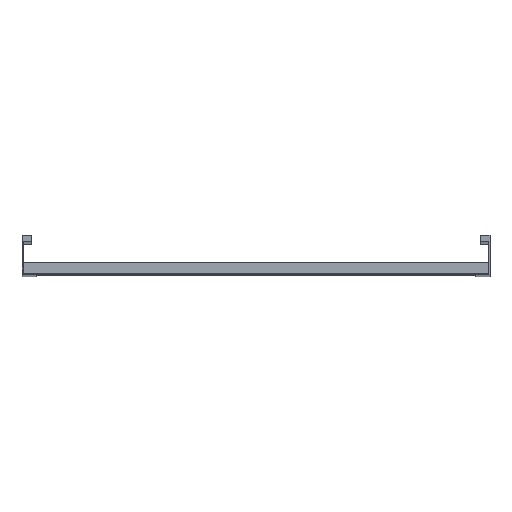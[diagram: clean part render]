
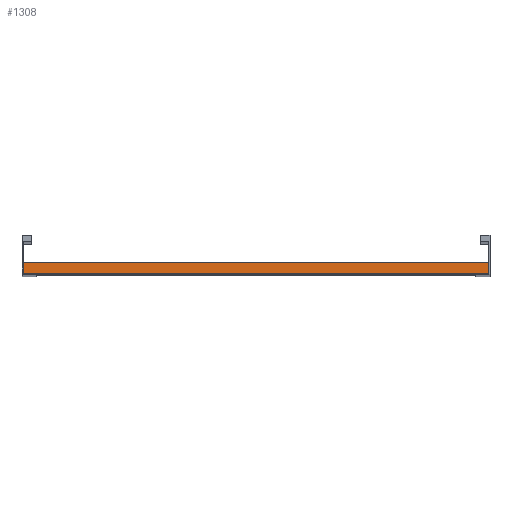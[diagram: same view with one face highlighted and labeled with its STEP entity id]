
A CAD part, top view. The second image highlights one B-rep face of the part: STEP entity #1308.
In plain terms, the highlighted planar face has unit normal (0, 0, 1).
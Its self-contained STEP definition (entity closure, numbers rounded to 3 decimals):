
#113 = CARTESIAN_POINT ( 'NONE',  ( 448., 20., 20.25 ) ) ;
#121 = VERTEX_POINT ( 'NONE', #113 ) ;
#126 = EDGE_LOOP ( 'NONE', ( #636, #1141, #439, #1167 ) ) ;
#167 = LINE ( 'NONE', #1207, #1609 ) ;
#183 = PLANE ( 'NONE',  #1633 ) ;
#305 = FACE_OUTER_BOUND ( 'NONE', #126, .T. ) ;
#334 = EDGE_CURVE ( 'NONE', #121, #1163, #1511, .T. ) ;
#411 = VERTEX_POINT ( 'NONE', #991 ) ;
#412 = DIRECTION ( 'NONE',  ( 0., -1., 0. ) ) ;
#427 = VECTOR ( 'NONE', #1382, 1000. ) ;
#429 = VECTOR ( 'NONE', #979, 1000. ) ;
#439 = ORIENTED_EDGE ( 'NONE', *, *, #334, .F. ) ;
#636 = ORIENTED_EDGE ( 'NONE', *, *, #1108, .T. ) ;
#704 = LINE ( 'NONE', #1641, #429 ) ;
#719 = CARTESIAN_POINT ( 'NONE',  ( 448., 20., 20.25 ) ) ;
#774 = LINE ( 'NONE', #1165, #1519 ) ;
#805 = CARTESIAN_POINT ( 'NONE',  ( -448., 0., 20.25 ) ) ;
#979 = DIRECTION ( 'NONE',  ( -1., 0., 0. ) ) ;
#991 = CARTESIAN_POINT ( 'NONE',  ( -448., 20., 20.25 ) ) ;
#1030 = DIRECTION ( 'NONE',  ( 0., 0., -1. ) ) ;
#1076 = VERTEX_POINT ( 'NONE', #805 ) ;
#1108 = EDGE_CURVE ( 'NONE', #411, #1076, #167, .T. ) ;
#1140 = CARTESIAN_POINT ( 'NONE',  ( 448., 0., 20.25 ) ) ;
#1141 = ORIENTED_EDGE ( 'NONE', *, *, #1444, .F. ) ;
#1163 = VERTEX_POINT ( 'NONE', #1140 ) ;
#1165 = CARTESIAN_POINT ( 'NONE',  ( 448., 0., 20.25 ) ) ;
#1167 = ORIENTED_EDGE ( 'NONE', *, *, #1302, .T. ) ;
#1207 = CARTESIAN_POINT ( 'NONE',  ( -448., 20., 20.25 ) ) ;
#1302 = EDGE_CURVE ( 'NONE', #121, #411, #704, .T. ) ;
#1304 = CARTESIAN_POINT ( 'NONE',  ( 448., 20., 20.25 ) ) ;
#1308 = ADVANCED_FACE ( 'NONE', ( #305 ), #183, .F. ) ;
#1382 = DIRECTION ( 'NONE',  ( 0., -1., 0. ) ) ;
#1444 = EDGE_CURVE ( 'NONE', #1163, #1076, #774, .T. ) ;
#1511 = LINE ( 'NONE', #719, #427 ) ;
#1519 = VECTOR ( 'NONE', #1702, 1000. ) ;
#1609 = VECTOR ( 'NONE', #412, 1000. ) ;
#1633 = AXIS2_PLACEMENT_3D ( 'NONE', #1304, #1030, #1691 ) ;
#1641 = CARTESIAN_POINT ( 'NONE',  ( 448., 20., 20.25 ) ) ;
#1691 = DIRECTION ( 'NONE',  ( 0., 1., 0. ) ) ;
#1702 = DIRECTION ( 'NONE',  ( -1., 0., 0. ) ) ;
